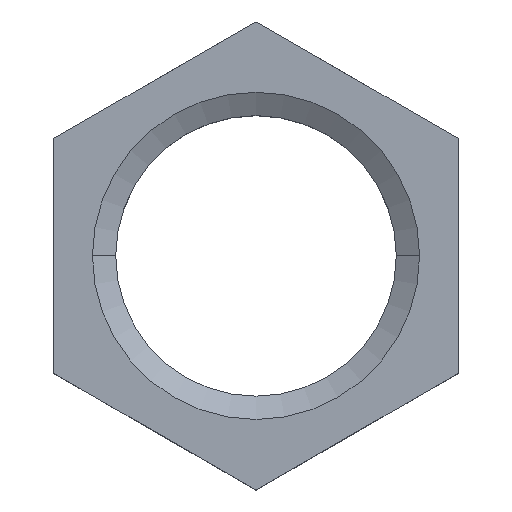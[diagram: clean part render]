
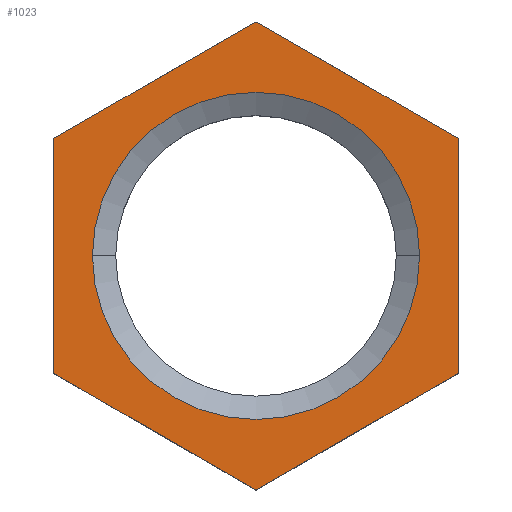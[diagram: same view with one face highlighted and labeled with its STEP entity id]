
A CAD part, top view. The second image highlights one B-rep face of the part: STEP entity #1023.
In plain terms, the highlighted planar face has unit normal (0, 0, 1).
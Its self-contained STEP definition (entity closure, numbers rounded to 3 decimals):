
#67 = DIRECTION ( 'NONE',  ( 1., 0., 0. ) ) ;
#68 = DIRECTION ( 'NONE',  ( 0., 0., 1. ) ) ;
#69 = AXIS2_PLACEMENT_3D ( 'NONE', #71, #68, #67 ) ;
#70 = CIRCLE ( 'NONE', #69, 6.05 ) ;
#71 = CARTESIAN_POINT ( 'NONE',  ( 0., 0., 0. ) ) ;
#147 = CARTESIAN_POINT ( 'NONE',  ( 7.5, 4.31, 0. ) ) ;
#239 = CARTESIAN_POINT ( 'NONE',  ( -6.05, 0., 0. ) ) ;
#277 = CARTESIAN_POINT ( 'NONE',  ( 7.5, -4.33, 0. ) ) ;
#278 = LINE ( 'NONE', #277, #313 ) ;
#282 = DIRECTION ( 'NONE',  ( 0.866, -0.5, 0. ) ) ;
#283 = VECTOR ( 'NONE', #282, 1000. ) ;
#294 = DIRECTION ( 'NONE',  ( -0.866, -0.5, 0. ) ) ;
#295 = VECTOR ( 'NONE', #294, 1000. ) ;
#296 = CARTESIAN_POINT ( 'NONE',  ( -7.5, 4.31, 0. ) ) ;
#299 = CARTESIAN_POINT ( 'NONE',  ( -7.5, -4.33, 0. ) ) ;
#300 = LINE ( 'NONE', #299, #283 ) ;
#303 = CARTESIAN_POINT ( 'NONE',  ( 0., 8.66, 0. ) ) ;
#304 = LINE ( 'NONE', #303, #295 ) ;
#312 = DIRECTION ( 'NONE',  ( 0., 1., 0. ) ) ;
#313 = VECTOR ( 'NONE', #312, 1000. ) ;
#318 = DIRECTION ( 'NONE',  ( 1., 0., 0. ) ) ;
#319 = DIRECTION ( 'NONE',  ( 0., 0., 1. ) ) ;
#320 = AXIS2_PLACEMENT_3D ( 'NONE', #335, #327, #326 ) ;
#321 = PLANE ( 'NONE',  #320 ) ;
#322 = CARTESIAN_POINT ( 'NONE',  ( 0., 0., 0. ) ) ;
#323 = AXIS2_PLACEMENT_3D ( 'NONE', #322, #319, #318 ) ;
#325 = CIRCLE ( 'NONE', #323, 8.65 ) ;
#326 = DIRECTION ( 'NONE',  ( -1., 0., 0. ) ) ;
#327 = DIRECTION ( 'NONE',  ( 0., 0., -1. ) ) ;
#335 = CARTESIAN_POINT ( 'NONE',  ( 0., 8.65, 0. ) ) ;
#353 = DIRECTION ( 'NONE',  ( 0., -1., 0. ) ) ;
#354 = CARTESIAN_POINT ( 'NONE',  ( 0., 0., 0. ) ) ;
#357 = CIRCLE ( 'NONE', #363, 8.65 ) ;
#358 = CIRCLE ( 'NONE', #367, 8.65 ) ;
#359 = CARTESIAN_POINT ( 'NONE',  ( -7.482, -4.34, 0. ) ) ;
#360 = DIRECTION ( 'NONE',  ( 1., 0., 0. ) ) ;
#361 = DIRECTION ( 'NONE',  ( 0., 0., 1. ) ) ;
#362 = CARTESIAN_POINT ( 'NONE',  ( 0., 0., 0. ) ) ;
#363 = AXIS2_PLACEMENT_3D ( 'NONE', #362, #361, #360 ) ;
#364 = LINE ( 'NONE', #372, #373 ) ;
#365 = DIRECTION ( 'NONE',  ( 1., 0., 0. ) ) ;
#366 = DIRECTION ( 'NONE',  ( 0., 0., 1. ) ) ;
#367 = AXIS2_PLACEMENT_3D ( 'NONE', #354, #366, #365 ) ;
#370 = CARTESIAN_POINT ( 'NONE',  ( -7.5, -4.31, 0. ) ) ;
#371 = CARTESIAN_POINT ( 'NONE',  ( -0.018, -8.65, 0. ) ) ;
#372 = CARTESIAN_POINT ( 'NONE',  ( -7.5, 4.33, 0. ) ) ;
#373 = VECTOR ( 'NONE', #353, 1000. ) ;
#374 = CARTESIAN_POINT ( 'NONE',  ( 0., 0., 0. ) ) ;
#375 = AXIS2_PLACEMENT_3D ( 'NONE', #374, #382, #381 ) ;
#376 = CIRCLE ( 'NONE', #375, 8.65 ) ;
#377 = CARTESIAN_POINT ( 'NONE',  ( -0.018, 8.65, 0. ) ) ;
#378 = FACE_OUTER_BOUND ( 'NONE', #1094, .T. ) ;
#379 = FACE_BOUND ( 'NONE', #1030, .T. ) ;
#380 = CARTESIAN_POINT ( 'NONE',  ( 0.018, -8.65, 0. ) ) ;
#381 = DIRECTION ( 'NONE',  ( 1., 0., 0. ) ) ;
#382 = DIRECTION ( 'NONE',  ( 0., 0., 1. ) ) ;
#383 = CARTESIAN_POINT ( 'NONE',  ( 0.018, 8.65, 0. ) ) ;
#384 = AXIS2_PLACEMENT_3D ( 'NONE', #391, #393, #392 ) ;
#385 = CIRCLE ( 'NONE', #384, 8.65 ) ;
#391 = CARTESIAN_POINT ( 'NONE',  ( 0., 0., 0. ) ) ;
#392 = DIRECTION ( 'NONE',  ( 1., 0., 0. ) ) ;
#393 = DIRECTION ( 'NONE',  ( 0., 0., 1. ) ) ;
#413 = AXIS2_PLACEMENT_3D ( 'NONE', #429, #428, #427 ) ;
#414 = CIRCLE ( 'NONE', #413, 8.65 ) ;
#415 = LINE ( 'NONE', #424, #423 ) ;
#422 = DIRECTION ( 'NONE',  ( -0.866, 0.5, 0. ) ) ;
#423 = VECTOR ( 'NONE', #422, 1000. ) ;
#424 = CARTESIAN_POINT ( 'NONE',  ( 7.5, 4.33, 0. ) ) ;
#426 = LINE ( 'NONE', #434, #435 ) ;
#427 = DIRECTION ( 'NONE',  ( 1., 0., 0. ) ) ;
#428 = DIRECTION ( 'NONE',  ( 0., 0., 1. ) ) ;
#429 = CARTESIAN_POINT ( 'NONE',  ( 0., 0., 0. ) ) ;
#431 = DIRECTION ( 'NONE',  ( 0.866, 0.5, 0. ) ) ;
#434 = CARTESIAN_POINT ( 'NONE',  ( 0., -8.66, 0. ) ) ;
#435 = VECTOR ( 'NONE', #431, 1000. ) ;
#439 = CARTESIAN_POINT ( 'NONE',  ( 7.482, -4.34, 0. ) ) ;
#473 = CARTESIAN_POINT ( 'NONE',  ( -7.482, 4.34, 0. ) ) ;
#474 = CARTESIAN_POINT ( 'NONE',  ( 7.482, 4.34, 0. ) ) ;
#809 = DIRECTION ( 'NONE',  ( 1., 0., 0. ) ) ;
#810 = DIRECTION ( 'NONE',  ( 0., 0., 1. ) ) ;
#822 = CARTESIAN_POINT ( 'NONE',  ( 6.05, 0., 0. ) ) ;
#830 = CARTESIAN_POINT ( 'NONE',  ( 7.5, -4.31, 0. ) ) ;
#831 = CARTESIAN_POINT ( 'NONE',  ( 0., 0., 0. ) ) ;
#832 = AXIS2_PLACEMENT_3D ( 'NONE', #831, #810, #809 ) ;
#833 = CIRCLE ( 'NONE', #832, 6.05 ) ;
#912 = VERTEX_POINT ( 'NONE', #147 ) ;
#949 = VERTEX_POINT ( 'NONE', #239 ) ;
#975 = EDGE_CURVE ( 'NONE', #990, #912, #278, .T. ) ;
#978 = VERTEX_POINT ( 'NONE', #296 ) ;
#979 = EDGE_CURVE ( 'NONE', #1015, #1017, #300, .T. ) ;
#980 = EDGE_CURVE ( 'NONE', #1013, #1092, #304, .T. ) ;
#981 = ORIENTED_EDGE ( 'NONE', *, *, #1004, .T. ) ;
#987 = EDGE_CURVE ( 'NONE', #949, #988, #70, .T. ) ;
#988 = VERTEX_POINT ( 'NONE', #822 ) ;
#990 = VERTEX_POINT ( 'NONE', #830 ) ;
#996 = ORIENTED_EDGE ( 'NONE', *, *, #997, .F. ) ;
#997 = EDGE_CURVE ( 'NONE', #988, #949, #833, .T. ) ;
#998 = ORIENTED_EDGE ( 'NONE', *, *, #987, .F. ) ;
#999 = ORIENTED_EDGE ( 'NONE', *, *, #1014, .T. ) ;
#1004 = EDGE_CURVE ( 'NONE', #1092, #978, #325, .T. ) ;
#1005 = ORIENTED_EDGE ( 'NONE', *, *, #1006, .T. ) ;
#1006 = EDGE_CURVE ( 'NONE', #978, #1012, #364, .T. ) ;
#1008 = ORIENTED_EDGE ( 'NONE', *, *, #1020, .T. ) ;
#1009 = ORIENTED_EDGE ( 'NONE', *, *, #975, .T. ) ;
#1010 = ORIENTED_EDGE ( 'NONE', *, *, #1011, .T. ) ;
#1011 = EDGE_CURVE ( 'NONE', #912, #1091, #358, .T. ) ;
#1012 = VERTEX_POINT ( 'NONE', #370 ) ;
#1013 = VERTEX_POINT ( 'NONE', #377 ) ;
#1014 = EDGE_CURVE ( 'NONE', #1012, #1015, #357, .T. ) ;
#1015 = VERTEX_POINT ( 'NONE', #359 ) ;
#1016 = ORIENTED_EDGE ( 'NONE', *, *, #979, .T. ) ;
#1017 = VERTEX_POINT ( 'NONE', #371 ) ;
#1018 = ORIENTED_EDGE ( 'NONE', *, *, #1025, .T. ) ;
#1020 = EDGE_CURVE ( 'NONE', #1017, #1021, #376, .T. ) ;
#1021 = VERTEX_POINT ( 'NONE', #380 ) ;
#1023 = ADVANCED_FACE ( 'NONE', ( #379, #378 ), #321, .F. ) ;
#1024 = VERTEX_POINT ( 'NONE', #383 ) ;
#1025 = EDGE_CURVE ( 'NONE', #1024, #1013, #385, .T. ) ;
#1026 = ORIENTED_EDGE ( 'NONE', *, *, #980, .T. ) ;
#1030 = EDGE_LOOP ( 'NONE', ( #996, #998 ) ) ;
#1050 = ORIENTED_EDGE ( 'NONE', *, *, #1051, .T. ) ;
#1051 = EDGE_CURVE ( 'NONE', #1021, #1061, #426, .T. ) ;
#1061 = VERTEX_POINT ( 'NONE', #439 ) ;
#1062 = ORIENTED_EDGE ( 'NONE', *, *, #1063, .T. ) ;
#1063 = EDGE_CURVE ( 'NONE', #1061, #990, #414, .T. ) ;
#1065 = ORIENTED_EDGE ( 'NONE', *, *, #1066, .T. ) ;
#1066 = EDGE_CURVE ( 'NONE', #1091, #1024, #415, .T. ) ;
#1091 = VERTEX_POINT ( 'NONE', #474 ) ;
#1092 = VERTEX_POINT ( 'NONE', #473 ) ;
#1094 = EDGE_LOOP ( 'NONE', ( #1065, #1018, #1026, #981, #1005, #999, #1016, #1008, #1050, #1062, #1009, #1010 ) ) ;
